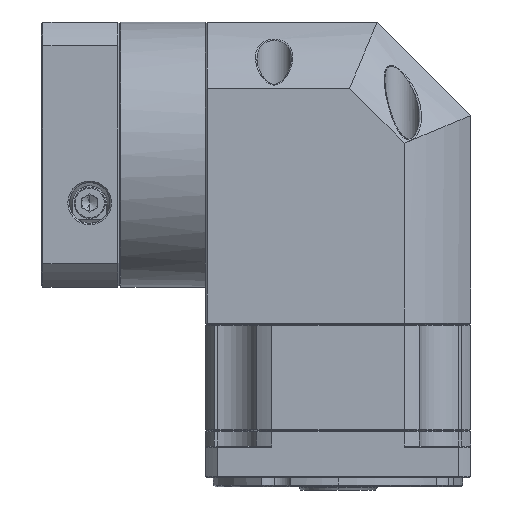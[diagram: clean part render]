
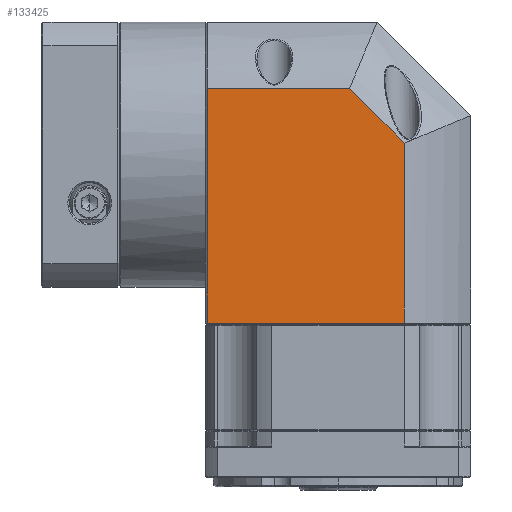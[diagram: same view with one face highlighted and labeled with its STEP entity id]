
A CAD part, left-side view. The second image highlights one B-rep face of the part: STEP entity #133425.
In plain terms, the highlighted planar face has unit normal (-1, 0, 0).
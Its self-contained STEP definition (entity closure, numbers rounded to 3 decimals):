
#3649 = VERTEX_POINT ( 'NONE', #70670 ) ;
#4681 = VECTOR ( 'NONE', #100533, 1000. ) ;
#9095 = VERTEX_POINT ( 'NONE', #76993 ) ;
#9724 = CARTESIAN_POINT ( 'NONE',  ( -94.969, 54.886, 62.935 ) ) ;
#10221 = VECTOR ( 'NONE', #112816, 1000. ) ;
#10384 = ORIENTED_EDGE ( 'NONE', *, *, #83269, .T. ) ;
#13615 = CARTESIAN_POINT ( 'NONE',  ( -94.969, 9.204, 41.648 ) ) ;
#17619 = LINE ( 'NONE', #58662, #4681 ) ;
#18795 = EDGE_CURVE ( 'NONE', #3649, #26880, #94208, .T. ) ;
#19800 = ORIENTED_EDGE ( 'NONE', *, *, #67165, .F. ) ;
#22112 = LINE ( 'NONE', #13615, #75221 ) ;
#22636 = CARTESIAN_POINT ( 'NONE',  ( -94.969, 54.886, 41.648 ) ) ;
#22827 = VERTEX_POINT ( 'NONE', #58254 ) ;
#24082 = EDGE_CURVE ( 'NONE', #9095, #3649, #22112, .T. ) ;
#26880 = VERTEX_POINT ( 'NONE', #131634 ) ;
#27381 = CARTESIAN_POINT ( 'NONE',  ( -94.969, 55.386, 62.935 ) ) ;
#34544 = LINE ( 'NONE', #108930, #52315 ) ;
#38221 = DIRECTION ( 'NONE',  ( 1., 0., 0. ) ) ;
#49503 = DIRECTION ( 'NONE',  ( 0., 1., 0. ) ) ;
#50805 = VERTEX_POINT ( 'NONE', #22636 ) ;
#52315 = VECTOR ( 'NONE', #56303, 1000. ) ;
#53874 = VECTOR ( 'NONE', #113225, 1000. ) ;
#56303 = DIRECTION ( 'NONE',  ( 0., -1., 0. ) ) ;
#58254 = CARTESIAN_POINT ( 'NONE',  ( -94.969, 54.886, -33.565 ) ) ;
#58662 = CARTESIAN_POINT ( 'NONE',  ( -94.969, 55.386, -33.565 ) ) ;
#67165 = EDGE_CURVE ( 'NONE', #50805, #9095, #34544, .T. ) ;
#67833 = EDGE_CURVE ( 'NONE', #22827, #50805, #95633, .T. ) ;
#70670 = CARTESIAN_POINT ( 'NONE',  ( -94.969, -8.327, 24.117 ) ) ;
#75221 = VECTOR ( 'NONE', #106788, 1000. ) ;
#76993 = CARTESIAN_POINT ( 'NONE',  ( -94.969, 9.204, 41.648 ) ) ;
#78754 = EDGE_LOOP ( 'NONE', ( #10384, #92066, #117751, #19800, #121932 ) ) ;
#83269 = EDGE_CURVE ( 'NONE', #22827, #26880, #17619, .T. ) ;
#87262 = FACE_OUTER_BOUND ( 'NONE', #78754, .T. ) ;
#92066 = ORIENTED_EDGE ( 'NONE', *, *, #18795, .F. ) ;
#94208 = LINE ( 'NONE', #101984, #53874 ) ;
#95633 = LINE ( 'NONE', #9724, #10221 ) ;
#100533 = DIRECTION ( 'NONE',  ( 0., -1., 0. ) ) ;
#101984 = CARTESIAN_POINT ( 'NONE',  ( -94.969, -8.327, 66.435 ) ) ;
#106788 = DIRECTION ( 'NONE',  ( 0., -0.707, -0.707 ) ) ;
#108930 = CARTESIAN_POINT ( 'NONE',  ( -94.969, 55.386, 41.648 ) ) ;
#112816 = DIRECTION ( 'NONE',  ( 0., 0., 1. ) ) ;
#113225 = DIRECTION ( 'NONE',  ( 0., 0., -1. ) ) ;
#117751 = ORIENTED_EDGE ( 'NONE', *, *, #24082, .F. ) ;
#119037 = AXIS2_PLACEMENT_3D ( 'NONE', #27381, #38221, #49503 ) ;
#121932 = ORIENTED_EDGE ( 'NONE', *, *, #67833, .F. ) ;
#130595 = PLANE ( 'NONE',  #119037 ) ;
#131634 = CARTESIAN_POINT ( 'NONE',  ( -94.969, -8.327, -33.565 ) ) ;
#133425 = ADVANCED_FACE ( 'NONE', ( #87262 ), #130595, .F. ) ;
